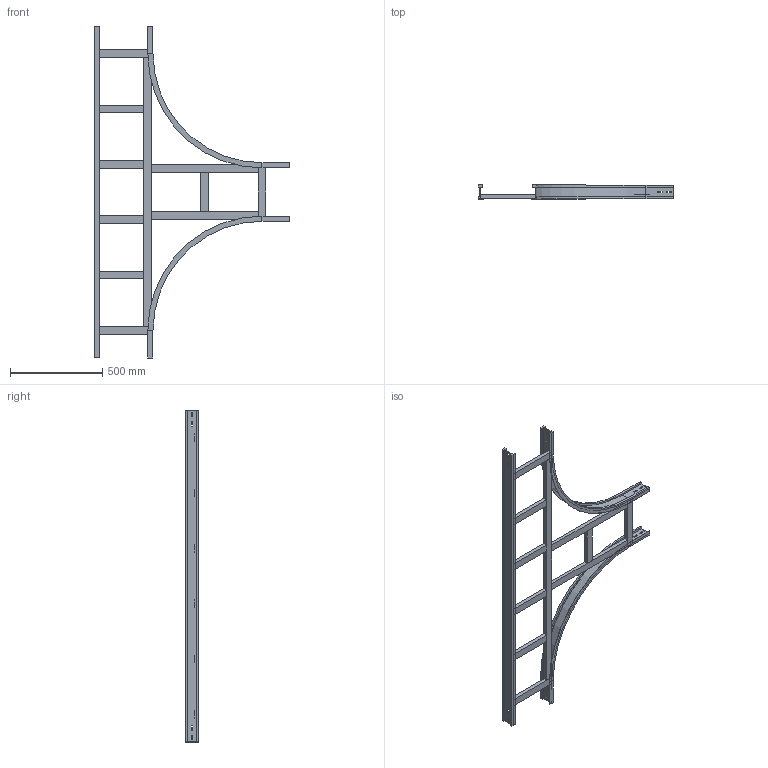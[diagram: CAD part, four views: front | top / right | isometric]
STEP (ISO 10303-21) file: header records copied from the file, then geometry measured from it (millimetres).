
FILE_DESCRIPTION (( 'STEP AP214' ), '1' );
FILE_NAME ('15S6C300.step', '2025-02-21T16:15:19', ( '' ), ( '' ), 'SwSTEP 2.0', 'SolidWorks 2023', '' );
FILE_SCHEMA (( 'AUTOMOTIVE_DESIGN' ));
Length unit declared in the file: millimetre
Products named in the file (8): LONGH.INTERNO 90°_H75_R600; 15S6C300; LONGH.RETT_H75_R600+300; TRAVERSINO_VERT_R600; TRAVERSINO_COPPIA_300; TRAVERSINO_300; TRAVERSINO_LONG._R600+300; TRAVERSINO_INTERMEDIO_R600+300
Assembly tree (14 placements, depth 2):
  15S6C300
    LONGH.INTERNO 90°_H75_R600  x2
    LONGH.RETT_H75_R600+300
    TRAVERSINO_300  x3
    TRAVERSINO_LONG._R600+300
    TRAVERSINO_INTERMEDIO_R600+300  x4
    TRAVERSINO_VERT_R600  x2
    TRAVERSINO_COPPIA_300
Bounding box: 1059 x 75 x 1800 mm (x, y, z)
Volume: 5960111.8 mm3; surface area: 1651679.4 mm2
Topology: 14 solids, 14 shells, 204 faces, 480 edges, 304 vertices
Faces by surface type: plane 192, cylinder 12
Entity records: 3581 total; most frequent: CARTESIAN_POINT 583, ORIENTED_EDGE 552, DIRECTION 550, EDGE_CURVE 276, VECTOR 264, LINE 264, VERTEX_POINT 176, AXIS2_PLACEMENT_3D 143
